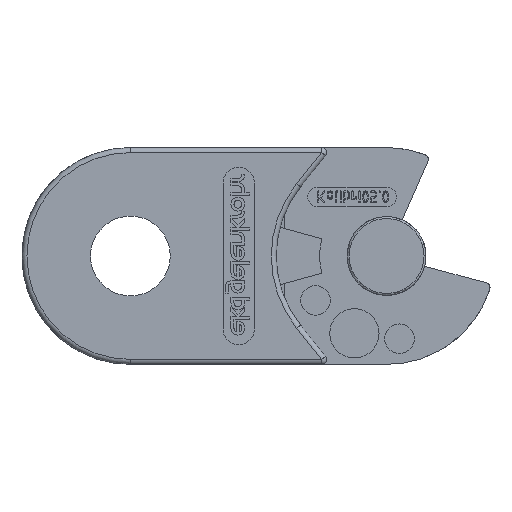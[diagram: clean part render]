
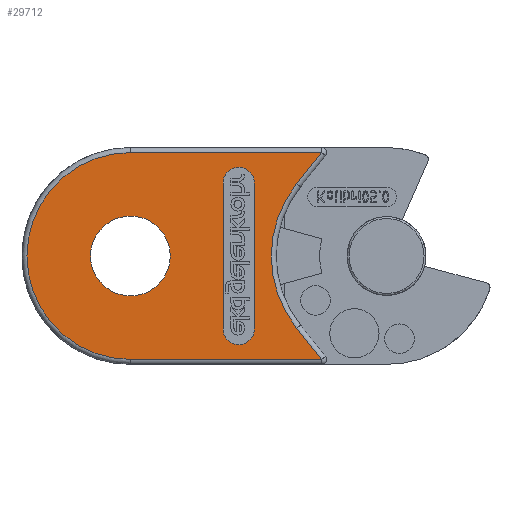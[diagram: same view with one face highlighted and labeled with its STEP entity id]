
A CAD part, left-side view. The second image highlights one B-rep face of the part: STEP entity #29712.
In plain terms, the highlighted planar face has unit normal (-1, 0, 0).
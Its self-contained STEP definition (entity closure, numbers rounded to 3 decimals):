
#16895=CARTESIAN_POINT('',(-2.8,8.95,11.));
#16896=VERTEX_POINT('',#16895);
#16897=CARTESIAN_POINT('',(-2.8,13.,11.));
#16898=DIRECTION('',(-1.0,0.0,0.0));
#16899=DIRECTION('',(0.0,1.0,0.0));
#16900=AXIS2_PLACEMENT_3D('',#16897,#16898,#16899);
#16901=CIRCLE('',#16900,4.05);
#16902=EDGE_CURVE('',#16896,#16896,#16901,.T.);
#17049=CARTESIAN_POINT('',(-2.8,13.,0.5));
#17050=VERTEX_POINT('',#17049);
#17066=CARTESIAN_POINT('',(-2.8,-6.419,0.5));
#17067=VERTEX_POINT('',#17066);
#17075=CARTESIAN_POINT('',(-2.8,13.,0.5));
#17076=DIRECTION('',(0.0,-1.0,0.0));
#17077=VECTOR('',#17076,19.419);
#17078=LINE('',#17075,#17077);
#17079=EDGE_CURVE('',#17050,#17067,#17078,.T.);
#17089=CARTESIAN_POINT('',(-2.8,-6.419,21.5));
#17090=VERTEX_POINT('',#17089);
#17106=CARTESIAN_POINT('',(-2.8,13.,21.5));
#17107=VERTEX_POINT('',#17106);
#17115=CARTESIAN_POINT('',(-2.8,-6.419,21.5));
#17116=DIRECTION('',(0.0,1.0,0.0));
#17117=VECTOR('',#17116,19.419);
#17118=LINE('',#17115,#17117);
#17119=EDGE_CURVE('',#17090,#17107,#17118,.T.);
#17144=CARTESIAN_POINT('',(-2.8,-3.868,3.686));
#17145=VERTEX_POINT('',#17144);
#17153=CARTESIAN_POINT('',(-2.8,-6.419,0.5));
#17154=DIRECTION('',(0.0,0.625,0.781));
#17155=VECTOR('',#17154,4.082);
#17156=LINE('',#17153,#17155);
#17157=EDGE_CURVE('',#17067,#17145,#17156,.T.);
#17169=CARTESIAN_POINT('',(-2.8,-3.868,18.314));
#17170=VERTEX_POINT('',#17169);
#17191=CARTESIAN_POINT('',(-2.8,-3.868,18.314));
#17192=DIRECTION('',(0.0,-0.625,0.781));
#17193=VECTOR('',#17192,4.082);
#17194=LINE('',#17191,#17193);
#17195=EDGE_CURVE('',#17170,#17090,#17194,.T.);
#27834=CARTESIAN_POINT('',(-2.8,3.6,3.6));
#27835=VERTEX_POINT('',#27834);
#27836=CARTESIAN_POINT('',(-2.8,0.4,3.6));
#27837=VERTEX_POINT('',#27836);
#27838=CARTESIAN_POINT('',(-2.8,2.,3.6));
#27839=DIRECTION('',(-1.0,0.0,0.0));
#27840=DIRECTION('',(0.0,-1.0,0.0));
#27841=AXIS2_PLACEMENT_3D('',#27838,#27839,#27840);
#27842=CIRCLE('',#27841,1.6);
#27843=EDGE_CURVE('',#27835,#27837,#27842,.T.);
#27876=CARTESIAN_POINT('',(-2.8,0.4,18.4));
#27877=VERTEX_POINT('',#27876);
#27878=CARTESIAN_POINT('',(-2.8,0.4,3.6));
#27879=DIRECTION('',(0.0,0.0,1.0));
#27880=VECTOR('',#27879,14.8);
#27881=LINE('',#27878,#27880);
#27882=EDGE_CURVE('',#27837,#27877,#27881,.T.);
#29641=CARTESIAN_POINT('',(-2.8,3.6,18.4));
#29642=VERTEX_POINT('',#29641);
#29643=CARTESIAN_POINT('',(-2.8,2.,18.4));
#29644=DIRECTION('',(-1.0,0.0,0.0));
#29645=DIRECTION('',(0.0,-1.0,0.0));
#29646=AXIS2_PLACEMENT_3D('',#29643,#29644,#29645);
#29647=CIRCLE('',#29646,1.6);
#29648=EDGE_CURVE('',#27877,#29642,#29647,.T.);
#29666=CARTESIAN_POINT('',(-2.8,3.6,18.4));
#29667=DIRECTION('',(0.0,0.0,-1.0));
#29668=VECTOR('',#29667,14.8);
#29669=LINE('',#29666,#29668);
#29670=EDGE_CURVE('',#29642,#27835,#29669,.T.);
#29678=CARTESIAN_POINT('',(-2.8,6.728,11.));
#29679=DIRECTION('',(1.0,0.0,0.0));
#29680=DIRECTION('',(0.0,0.0,-1.0));
#29681=AXIS2_PLACEMENT_3D('',#29678,#29679,#29680);
#29682=PLANE('',#29681);
#29683=ORIENTED_EDGE('',*,*,#17195,.T.);
#29684=ORIENTED_EDGE('',*,*,#17119,.T.);
#29685=CARTESIAN_POINT('',(-2.8,13.,11.));
#29686=DIRECTION('',(-1.0,0.0,0.0));
#29687=DIRECTION('',(0.0,1.0,0.0));
#29688=AXIS2_PLACEMENT_3D('',#29685,#29686,#29687);
#29689=CIRCLE('',#29688,10.5);
#29690=EDGE_CURVE('',#17107,#17050,#29689,.T.);
#29691=ORIENTED_EDGE('',*,*,#29690,.T.);
#29692=ORIENTED_EDGE('',*,*,#17079,.T.);
#29693=ORIENTED_EDGE('',*,*,#17157,.T.);
#29694=CARTESIAN_POINT('',(-2.8,-13.,11.));
#29695=DIRECTION('',(1.0,0.0,0.0));
#29696=DIRECTION('',(0.0,1.0,0.0));
#29697=AXIS2_PLACEMENT_3D('',#29694,#29695,#29696);
#29698=CIRCLE('',#29697,11.7);
#29699=EDGE_CURVE('',#17145,#17170,#29698,.T.);
#29700=ORIENTED_EDGE('',*,*,#29699,.T.);
#29701=EDGE_LOOP('',(#29683,#29684,#29691,#29692,#29693,#29700));
#29702=FACE_OUTER_BOUND('',#29701,.T.);
#29703=ORIENTED_EDGE('',*,*,#16902,.F.);
#29704=EDGE_LOOP('',(#29703));
#29705=FACE_BOUND('',#29704,.T.);
#29706=ORIENTED_EDGE('',*,*,#29648,.F.);
#29707=ORIENTED_EDGE('',*,*,#27882,.F.);
#29708=ORIENTED_EDGE('',*,*,#27843,.F.);
#29709=ORIENTED_EDGE('',*,*,#29670,.F.);
#29710=EDGE_LOOP('',(#29706,#29707,#29708,#29709));
#29711=FACE_BOUND('',#29710,.T.);
#29712=ADVANCED_FACE('',(#29702,#29705,#29711),#29682,.F.);
